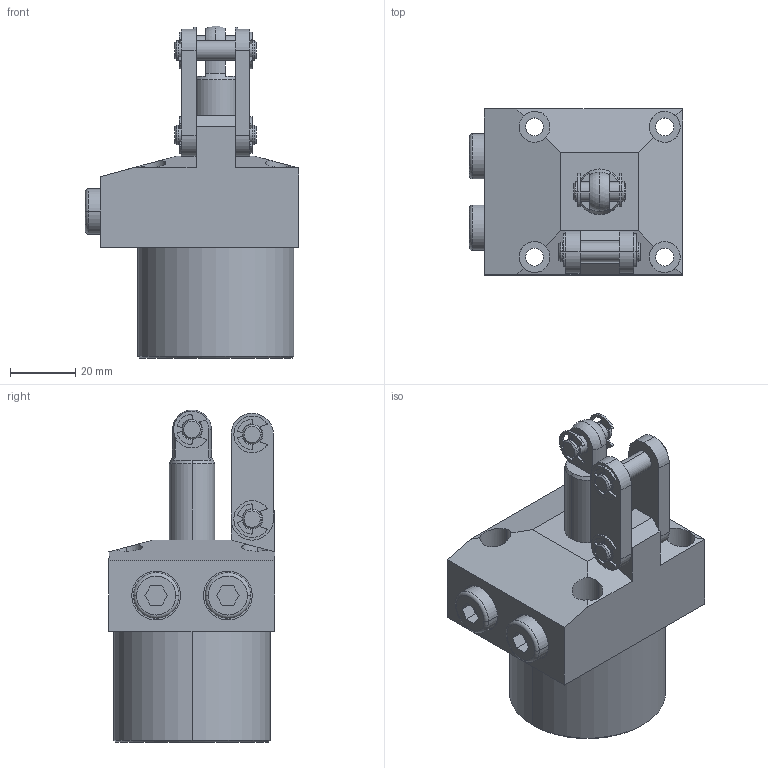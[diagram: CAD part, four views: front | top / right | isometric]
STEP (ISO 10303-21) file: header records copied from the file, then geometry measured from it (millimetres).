
FILE_DESCRIPTION (( 'STEP AP203' ), '1' );
FILE_NAME ('4171 321 R.STEP', '2017-11-17T06:55:57', ( '' ), ( '' ), 'SwSTEP 2.0', 'SolidWorks 2015', '' );
FILE_SCHEMA (( 'CONFIG_CONTROL_DESIGN' ));
Length unit declared in the file: millimetre
Products named in the file (7): BODY_4171 321 r; PR; LINK; PIN; PIN 1; (type e)_is_IS 3075(Part3) - 5; 4171 321 R
Assembly tree (13 placements, depth 2):
  4171 321 R
    BODY_4171 321 r
    PR
    LINK  x2
    PIN  x2
    PIN 1
    (type e)_is_IS 3075(Part3) - 5  x6
Bounding box: 65.5 x 51 x 102 mm (x, y, z)
Volume: 148274.9 mm3; surface area: 28615.8 mm2
Topology: 13 solids, 13 shells, 377 faces, 923 edges, 591 vertices
Faces by surface type: cylinder 192, plane 123, cone 56, torus 4, sphere 2
Entity records: 7160 total; most frequent: CARTESIAN_POINT 1209, DIRECTION 1143, ORIENTED_EDGE 986, EDGE_CURVE 493, AXIS2_PLACEMENT_3D 449, VERTEX_POINT 311, EDGE_LOOP 248, VECTOR 245
